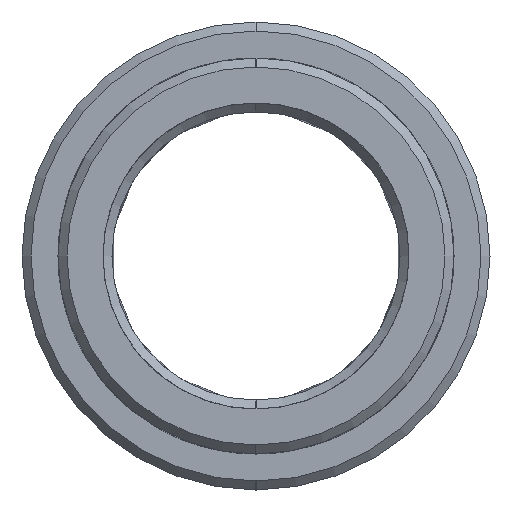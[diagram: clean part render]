
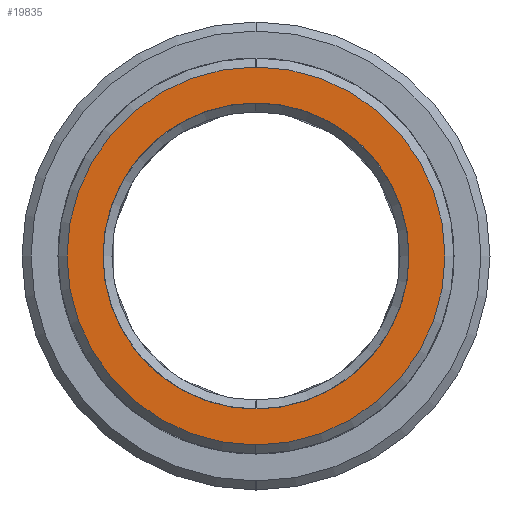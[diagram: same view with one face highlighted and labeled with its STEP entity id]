
A CAD part, left-side view. The second image highlights one B-rep face of the part: STEP entity #19835.
In plain terms, the highlighted planar face has unit normal (1, 0, 0).
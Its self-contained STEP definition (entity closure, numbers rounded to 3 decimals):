
#19752=CARTESIAN_POINT('Axis2P3D Location',(-12.,0.,0.)) ;
#19757=CARTESIAN_POINT('Axis2P3D Location',(-12.,0.,0.)) ;
#19761=CARTESIAN_POINT('Vertex',(-12.,0.,10.5)) ;
#19763=CARTESIAN_POINT('Vertex',(-12.,0.,-10.5)) ;
#19766=CARTESIAN_POINT('Axis2P3D Location',(-12.,0.,0.)) ;
#19776=CARTESIAN_POINT('Control Point',(-12.,0.,-8.5)) ;
#19777=CARTESIAN_POINT('Control Point',(-12.,-0.857,-8.5)) ;
#19778=CARTESIAN_POINT('Control Point',(-12.,-1.714,-8.392)) ;
#19779=CARTESIAN_POINT('Control Point',(-12.,-2.553,-8.176)) ;
#19780=CARTESIAN_POINT('Control Point',(-12.,-4.158,-7.537)) ;
#19781=CARTESIAN_POINT('Control Point',(-12.,-5.554,-6.52)) ;
#19782=CARTESIAN_POINT('Control Point',(-12.,-6.184,-5.926)) ;
#19783=CARTESIAN_POINT('Control Point',(-12.,-7.281,-4.591)) ;
#19784=CARTESIAN_POINT('Control Point',(-12.,-8.013,-3.026)) ;
#19785=CARTESIAN_POINT('Control Point',(-12.,-8.277,-2.202)) ;
#19786=CARTESIAN_POINT('Control Point',(-12.,-8.593,-0.503)) ;
#19787=CARTESIAN_POINT('Control Point',(-12.,-8.478,1.22)) ;
#19788=CARTESIAN_POINT('Control Point',(-12.,-8.311,2.07)) ;
#19789=CARTESIAN_POINT('Control Point',(-12.,-7.767,3.71)) ;
#19790=CARTESIAN_POINT('Control Point',(-12.,-6.834,5.164)) ;
#19791=CARTESIAN_POINT('Control Point',(-12.,-6.277,5.827)) ;
#19792=CARTESIAN_POINT('Control Point',(-12.,-5.009,7.)) ;
#19793=CARTESIAN_POINT('Control Point',(-12.,-3.49,7.822)) ;
#19794=CARTESIAN_POINT('Control Point',(-12.,-2.682,8.135)) ;
#19795=CARTESIAN_POINT('Control Point',(-12.,-1.649,8.39)) ;
#19796=CARTESIAN_POINT('Control Point',(-12.,-0.597,8.483)) ;
#19797=CARTESIAN_POINT('Control Point',(-12.,-0.398,8.494)) ;
#19798=CARTESIAN_POINT('Control Point',(-12.,-0.199,8.5)) ;
#19799=CARTESIAN_POINT('Control Point',(-12.,0.,8.5)) ;
#19800=CARTESIAN_POINT('Vertex',(-12.,0.,-8.5)) ;
#19802=CARTESIAN_POINT('Vertex',(-12.,0.,8.5)) ;
#19806=CARTESIAN_POINT('Control Point',(-12.,0.,8.5)) ;
#19807=CARTESIAN_POINT('Control Point',(-12.,0.857,8.5)) ;
#19808=CARTESIAN_POINT('Control Point',(-12.,1.714,8.392)) ;
#19809=CARTESIAN_POINT('Control Point',(-12.,2.553,8.176)) ;
#19810=CARTESIAN_POINT('Control Point',(-12.,4.158,7.537)) ;
#19811=CARTESIAN_POINT('Control Point',(-12.,5.554,6.52)) ;
#19812=CARTESIAN_POINT('Control Point',(-12.,6.184,5.926)) ;
#19813=CARTESIAN_POINT('Control Point',(-12.,7.281,4.591)) ;
#19814=CARTESIAN_POINT('Control Point',(-12.,8.013,3.026)) ;
#19815=CARTESIAN_POINT('Control Point',(-12.,8.277,2.202)) ;
#19816=CARTESIAN_POINT('Control Point',(-12.,8.593,0.503)) ;
#19817=CARTESIAN_POINT('Control Point',(-12.,8.478,-1.22)) ;
#19818=CARTESIAN_POINT('Control Point',(-12.,8.311,-2.07)) ;
#19819=CARTESIAN_POINT('Control Point',(-12.,7.767,-3.71)) ;
#19820=CARTESIAN_POINT('Control Point',(-12.,6.834,-5.164)) ;
#19821=CARTESIAN_POINT('Control Point',(-12.,6.277,-5.827)) ;
#19822=CARTESIAN_POINT('Control Point',(-12.,5.009,-7.)) ;
#19823=CARTESIAN_POINT('Control Point',(-12.,3.49,-7.822)) ;
#19824=CARTESIAN_POINT('Control Point',(-12.,2.682,-8.135)) ;
#19825=CARTESIAN_POINT('Control Point',(-12.,1.649,-8.39)) ;
#19826=CARTESIAN_POINT('Control Point',(-12.,0.597,-8.483)) ;
#19827=CARTESIAN_POINT('Control Point',(-12.,0.398,-8.494)) ;
#19828=CARTESIAN_POINT('Control Point',(-12.,0.199,-8.5)) ;
#19829=CARTESIAN_POINT('Control Point',(-12.,0.,-8.5)) ;
#19753=DIRECTION('Axis2P3D Direction',(1.,0.,0.)) ;
#19754=DIRECTION('Axis2P3D XDirection',(0.,1.,0.)) ;
#19758=DIRECTION('Axis2P3D Direction',(1.,0.,0.)) ;
#19767=DIRECTION('Axis2P3D Direction',(1.,0.,0.)) ;
#19755=AXIS2_PLACEMENT_3D('Plane Axis2P3D',#19752,#19753,#19754) ;
#19759=AXIS2_PLACEMENT_3D('Circle Axis2P3D',#19757,#19758,$) ;
#19768=AXIS2_PLACEMENT_3D('Circle Axis2P3D',#19766,#19767,$) ;
#19772=ORIENTED_EDGE('',*,*,#19765,.T.) ;
#19773=ORIENTED_EDGE('',*,*,#19770,.T.) ;
#19832=ORIENTED_EDGE('',*,*,#19804,.T.) ;
#19833=ORIENTED_EDGE('',*,*,#19830,.T.) ;
#19834=FACE_BOUND('',#19831,.T.) ;
#19835=ADVANCED_FACE('MANIFOLD_SOLID_BREP #11237',(#19774,#19834),#19756,.T.) ;
#19775=B_SPLINE_CURVE_WITH_KNOTS('',5,(#19776,#19777,#19778,#19779,#19780,#19781,#19782,#19783,#19784,#19785,#19786,#19787,#19788,#19789,#19790,#19791,#19792,#19793,#19794,#19795,#19796,#19797,#19798,#19799),.UNSPECIFIED.,.F.,.U.,(6,3,3,3,3,3,3,6),(0.,6.06,12.119,18.179,24.239,30.298,36.358,37.764),.UNSPECIFIED.) ;
#19805=B_SPLINE_CURVE_WITH_KNOTS('',5,(#19806,#19807,#19808,#19809,#19810,#19811,#19812,#19813,#19814,#19815,#19816,#19817,#19818,#19819,#19820,#19821,#19822,#19823,#19824,#19825,#19826,#19827,#19828,#19829),.UNSPECIFIED.,.F.,.U.,(6,3,3,3,3,3,3,6),(0.,6.06,12.119,18.179,24.239,30.298,36.358,37.764),.UNSPECIFIED.) ;
#19760=CIRCLE('generated circle',#19759,10.5) ;
#19769=CIRCLE('generated circle',#19768,10.5) ;
#19765=EDGE_CURVE('',#19762,#19764,#19760,.T.) ;
#19770=EDGE_CURVE('',#19764,#19762,#19769,.T.) ;
#19804=EDGE_CURVE('',#19801,#19803,#19775,.T.) ;
#19830=EDGE_CURVE('',#19803,#19801,#19805,.T.) ;
#19771=EDGE_LOOP('',(#19772,#19773)) ;
#19831=EDGE_LOOP('',(#19832,#19833)) ;
#19774=FACE_OUTER_BOUND('',#19771,.T.) ;
#19756=PLANE('Plane',#19755) ;
#19762=VERTEX_POINT('',#19761) ;
#19764=VERTEX_POINT('',#19763) ;
#19801=VERTEX_POINT('',#19800) ;
#19803=VERTEX_POINT('',#19802) ;
